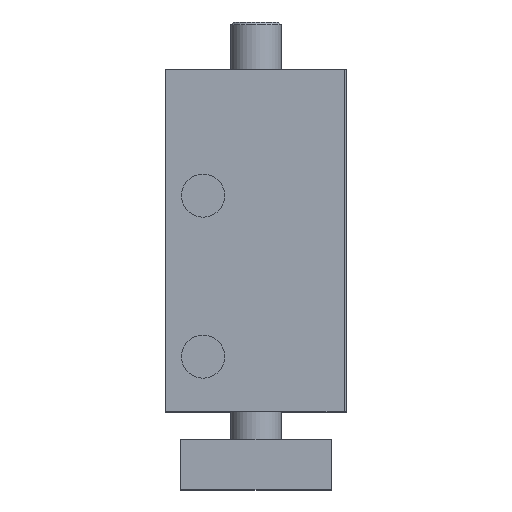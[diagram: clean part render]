
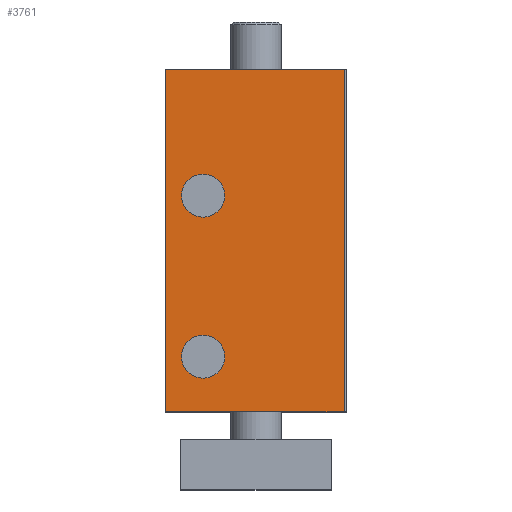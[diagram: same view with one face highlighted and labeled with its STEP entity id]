
A CAD part, front view. The second image highlights one B-rep face of the part: STEP entity #3761.
In plain terms, the highlighted planar face has unit normal (0, -1, 0).
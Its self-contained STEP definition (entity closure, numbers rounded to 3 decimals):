
#347=CARTESIAN_POINT('',(-18.0,-41.5,68.0));
#348=VERTEX_POINT('',#347);
#355=CARTESIAN_POINT('',(17.5,-41.5,68.0));
#356=VERTEX_POINT('',#355);
#357=CARTESIAN_POINT('',(17.5,-41.5,68.0));
#358=DIRECTION('',(-1.0,0.0,0.0));
#359=VECTOR('',#358,35.5);
#360=LINE('',#357,#359);
#361=EDGE_CURVE('',#356,#348,#360,.T.);
#2549=CARTESIAN_POINT('',(-6.217,-41.5,43.0));
#2550=VERTEX_POINT('',#2549);
#2551=CARTESIAN_POINT('',(-10.5,-41.5,43.0));
#2552=DIRECTION('',(0.0,1.0,0.0));
#2553=DIRECTION('',(1.0,0.0,0.0));
#2554=AXIS2_PLACEMENT_3D('',#2551,#2552,#2553);
#2555=CIRCLE('',#2554,4.283);
#2556=EDGE_CURVE('',#2550,#2550,#2555,.T.);
#2607=CARTESIAN_POINT('',(-6.217,-41.5,11.0));
#2608=VERTEX_POINT('',#2607);
#2609=CARTESIAN_POINT('',(-10.5,-41.5,11.0));
#2610=DIRECTION('',(0.0,1.0,0.0));
#2611=DIRECTION('',(1.0,0.0,0.0));
#2612=AXIS2_PLACEMENT_3D('',#2609,#2610,#2611);
#2613=CIRCLE('',#2612,4.283);
#2614=EDGE_CURVE('',#2608,#2608,#2613,.T.);
#3714=CARTESIAN_POINT('',(17.5,-41.5,0.0));
#3715=VERTEX_POINT('',#3714);
#3716=CARTESIAN_POINT('',(17.5,-41.5,0.0));
#3717=DIRECTION('',(0.0,0.0,1.0));
#3718=VECTOR('',#3717,68.0);
#3719=LINE('',#3716,#3718);
#3720=EDGE_CURVE('',#3715,#356,#3719,.T.);
#3732=CARTESIAN_POINT('',(17.5,-41.5,0.0));
#3733=DIRECTION('',(0.0,-1.0,0.0));
#3734=DIRECTION('',(0.0,0.0,-1.0));
#3735=AXIS2_PLACEMENT_3D('',#3732,#3733,#3734);
#3736=PLANE('',#3735);
#3737=ORIENTED_EDGE('',*,*,#361,.T.);
#3738=CARTESIAN_POINT('',(-18.0,-41.5,0.0));
#3739=VERTEX_POINT('',#3738);
#3740=CARTESIAN_POINT('',(-18.0,-41.5,0.0));
#3741=DIRECTION('',(0.0,0.0,1.0));
#3742=VECTOR('',#3741,68.0);
#3743=LINE('',#3740,#3742);
#3744=EDGE_CURVE('',#3739,#348,#3743,.T.);
#3745=ORIENTED_EDGE('',*,*,#3744,.F.);
#3746=CARTESIAN_POINT('',(-18.0,-41.5,0.0));
#3747=DIRECTION('',(1.0,0.0,0.0));
#3748=VECTOR('',#3747,35.5);
#3749=LINE('',#3746,#3748);
#3750=EDGE_CURVE('',#3739,#3715,#3749,.T.);
#3751=ORIENTED_EDGE('',*,*,#3750,.T.);
#3752=ORIENTED_EDGE('',*,*,#3720,.T.);
#3753=EDGE_LOOP('',(#3737,#3745,#3751,#3752));
#3754=FACE_OUTER_BOUND('',#3753,.T.);
#3755=ORIENTED_EDGE('',*,*,#2556,.T.);
#3756=EDGE_LOOP('',(#3755));
#3757=FACE_BOUND('',#3756,.T.);
#3758=ORIENTED_EDGE('',*,*,#2614,.T.);
#3759=EDGE_LOOP('',(#3758));
#3760=FACE_BOUND('',#3759,.T.);
#3761=ADVANCED_FACE('',(#3754,#3757,#3760),#3736,.T.);
